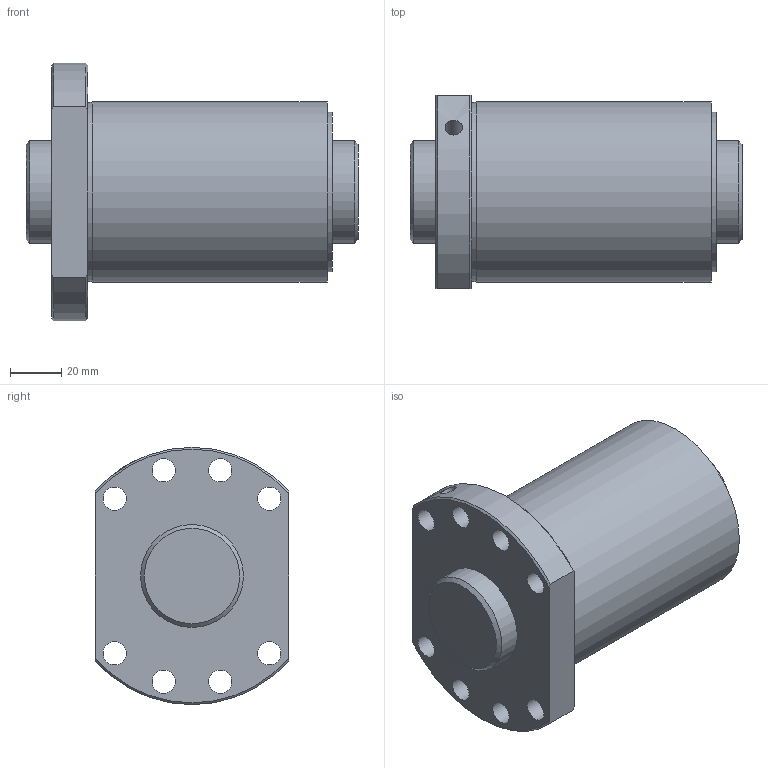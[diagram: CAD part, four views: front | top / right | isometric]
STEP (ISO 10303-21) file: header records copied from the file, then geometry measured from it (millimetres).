
FILE_DESCRIPTION(/* description */ ('STEP AP203'),/* implementation_level */ '2;1');
FILE_NAME(/* name */ 'SDA4025VA-4G0+129LC0(0G000)',/* time_stamp */ '2024-05-28T11:42:39+02:00',/* author */ ('License CC BY-ND 4.0'),/* organization */ ('CADENAS'),/* preprocessor_version */ 'ST-DEVELOPER v19.3',/* originating_system */ 'PARTsolutions',/* authorisation */ ' ');
FILE_SCHEMA (('CONFIG_CONTROL_DESIGN'));
Length unit declared in the file: millimetre
Products named in the file (3): SDA4025VA-4G0+129LC0(0G000); 000SDA4025VA-40Shaft; SDA-V serieSDA4025VA-4nut
Assembly tree (2 placements, depth 2):
  SDA4025VA-4G0+129LC0(0G000)
    000SDA4025VA-40Shaft
    SDA-V serieSDA4025VA-4nut
Bounding box: 129 x 75 x 100 mm (x, y, z)
Volume: 474699.9 mm3; surface area: 70817.2 mm2
Topology: 2 solids, 2 shells, 33 faces, 75 edges, 49 vertices
Faces by surface type: cylinder 17, plane 9, cone 7
Full cylindrical faces by diameter (mm): 5.2 x1, 6.647 x1, 9 x8, 40 x2, 62 x1, 69.6 x1, 70 x1
Entity records: 983 total; most frequent: CARTESIAN_POINT 184, DIRECTION 156, ORIENTED_EDGE 112, EDGE_LOOP 74, FACE_BOUND 74, AXIS2_PLACEMENT_3D 74, EDGE_CURVE 56, VERTEX_POINT 48
